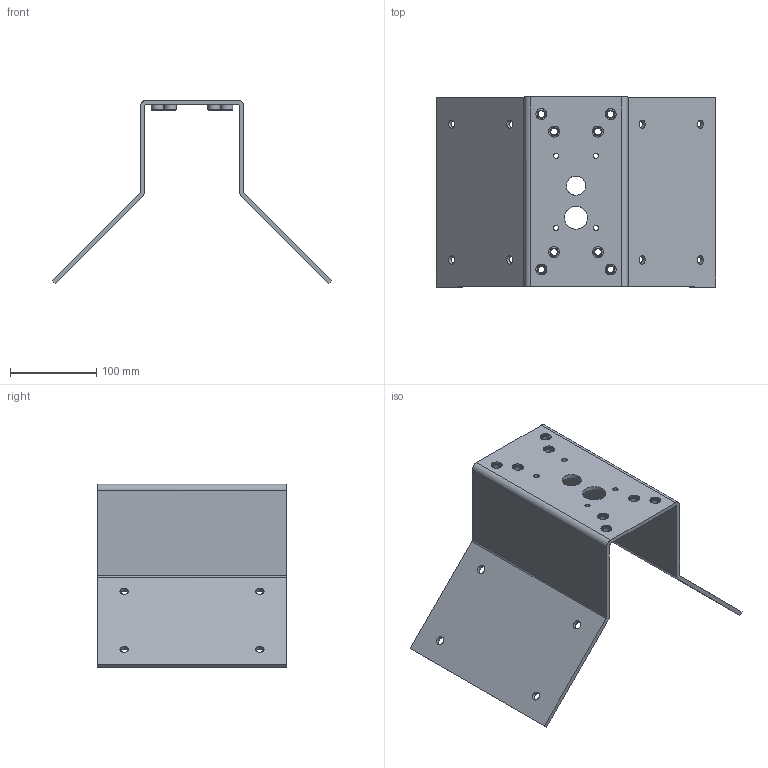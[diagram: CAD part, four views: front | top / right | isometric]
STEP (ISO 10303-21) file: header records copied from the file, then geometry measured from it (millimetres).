
FILE_DESCRIPTION (( 'STEP AP203' ), '1' );
FILE_NAME ('320A186, Panasonic PACA4, Mount adaptor.STEP', '2021-09-21T15:26:29', ( '' ), ( '' ), 'SwSTEP 2.0', 'SolidWorks 2021', '' );
FILE_SCHEMA (( 'CONFIG_CONTROL_DESIGN' ));
Length unit declared in the file: inch
Products named in the file (1): 320A186, Panasonic PACA4, Mount adaptor
Bounding box: 324.28 x 219.96 x 212.81 mm (x, y, z)
Volume: 637616.1 mm3; surface area: 281609.7 mm2
Topology: 1 solids, 1 shells, 202 faces, 464 edges, 288 vertices
Faces by surface type: cylinder 100, cone 64, plane 38
Entity records: 10671 total; most frequent: CARTESIAN_POINT 6891, ORIENTED_EDGE 928, EDGE_CURVE 464, B_SPLINE_CURVE_WITH_KNOTS 464, DIRECTION 406, VERTEX_POINT 288, EDGE_LOOP 270, AXIS2_PLACEMENT_3D 203
